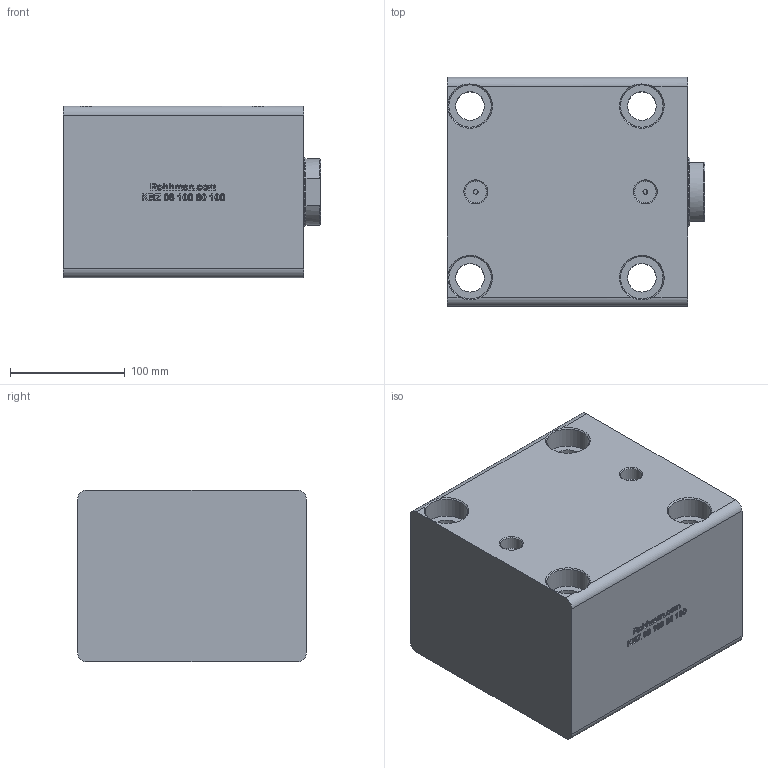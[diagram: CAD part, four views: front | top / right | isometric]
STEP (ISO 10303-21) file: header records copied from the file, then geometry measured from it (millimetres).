
FILE_DESCRIPTION(/* description */ (''),/* implementation_level */ '2;1');
FILE_NAME(/* name */ 'KBZ_08_100_60_100_WEB.step',/* time_stamp */ '2023-09-06T09:24:25+03:00',/* author */ (''),/* organization */ (''),/* preprocessor_version */ 'ST-DEVELOPER v20',/* originating_system */ 'Autodesk Translation Framework v12.9.0.99',/* authorisation */ '');
FILE_SCHEMA (('AUTOMOTIVE_DESIGN { 1 0 10303 214 3 1 1 }'));
Length unit declared in the file: millimetre
Products named in the file (6): KBZ_08_100_60_100_MONTAJ; KAPAK; KAPAK_1; GÖVDE; GÖVDE_1; Ø60_MİL
Assembly tree (5 placements, depth 3):
  KBZ_08_100_60_100_MONTAJ
    KAPAK
      KAPAK_1
    GÖVDE
      GÖVDE_1
    Ø60_MİL
Bounding box: 225 x 200 x 150 mm (x, y, z)
Volume: 5540698.2 mm3; surface area: 344887.3 mm2
Topology: 3 solids, 3 shells, 596 faces, 1614 edges, 1071 vertices
Faces by surface type: bspline 373, plane 177, cylinder 28, cone 18
Full cylindrical faces by diameter (mm): 4 x2, 5 x2, 18.901 x2, 25 x4, 37 x4, 37.464 x1, 60 x1, 60.5 x1, 100 x1, 110 x2, 120 x2
Entity records: 22428 total; most frequent: CARTESIAN_POINT 9766, ORIENTED_EDGE 3228, EDGE_CURVE 1614, DIRECTION 1403, VERTEX_POINT 1071, LINE 771, VECTOR 771, B_SPLINE_CURVE_WITH_KNOTS 756
